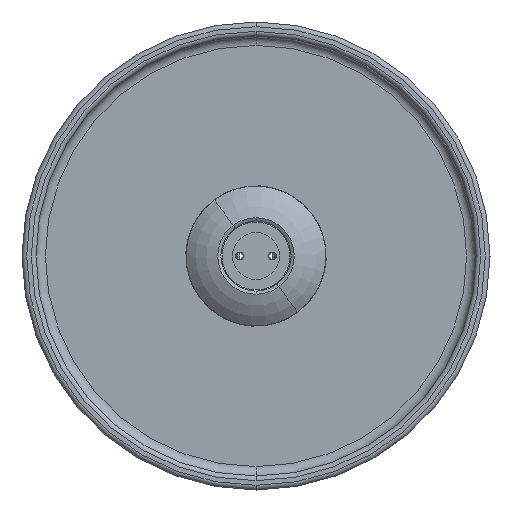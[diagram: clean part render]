
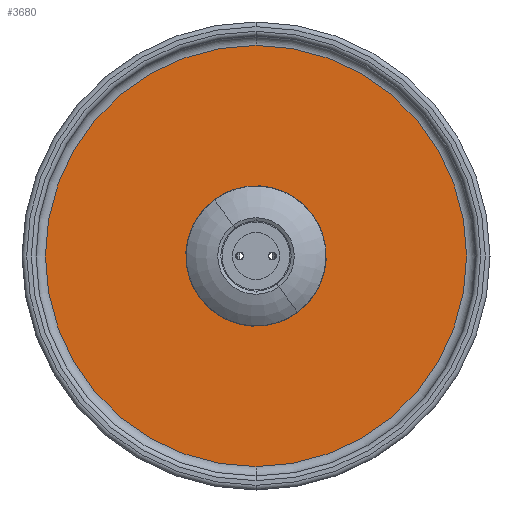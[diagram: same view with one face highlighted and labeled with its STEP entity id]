
A CAD part, front view. The second image highlights one B-rep face of the part: STEP entity #3680.
In plain terms, the highlighted planar face has unit normal (0, -1, 0).
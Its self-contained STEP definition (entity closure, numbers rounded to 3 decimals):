
#84 = EDGE_CURVE ( 'NONE', #2416, #198, #3423, .T. ) ;
#179 = ORIENTED_EDGE ( 'NONE', *, *, #84, .F. ) ;
#198 = VERTEX_POINT ( 'NONE', #1131 ) ;
#203 = CARTESIAN_POINT ( 'NONE',  ( 0., -3., 45. ) ) ;
#301 = DIRECTION ( 'NONE',  ( 0., -1., 0. ) ) ;
#386 = EDGE_LOOP ( 'NONE', ( #2329, #179 ) ) ;
#437 = CARTESIAN_POINT ( 'NONE',  ( -45., -3., 0. ) ) ;
#505 = AXIS2_PLACEMENT_3D ( 'NONE', #586, #2387, #889 ) ;
#524 = CARTESIAN_POINT ( 'NONE',  ( 0., -3., 10.25 ) ) ;
#586 = CARTESIAN_POINT ( 'NONE',  ( 0., -3., 0. ) ) ;
#670 = DIRECTION ( 'NONE',  ( 0., -1., 0. ) ) ;
#699 = DIRECTION ( 'NONE',  ( 0., 0., -1. ) ) ;
#824 = AXIS2_PLACEMENT_3D ( 'NONE', #1134, #1432, #3865 ) ;
#889 = DIRECTION ( 'NONE',  ( 0., 0., -1. ) ) ;
#954 = CARTESIAN_POINT ( 'NONE',  ( 0., -3., 0. ) ) ;
#1131 = CARTESIAN_POINT ( 'NONE',  ( 0., -3., -10.25 ) ) ;
#1132 = AXIS2_PLACEMENT_3D ( 'NONE', #437, #2243, #1923 ) ;
#1134 = CARTESIAN_POINT ( 'NONE',  ( 0., -3., 0. ) ) ;
#1321 = CIRCLE ( 'NONE', #2276, 45. ) ;
#1432 = DIRECTION ( 'NONE',  ( 0., -1., 0. ) ) ;
#1474 = VERTEX_POINT ( 'NONE', #2679 ) ;
#1875 = FACE_BOUND ( 'NONE', #386, .T. ) ;
#1923 = DIRECTION ( 'NONE',  ( 0., 0., 1. ) ) ;
#1951 = CARTESIAN_POINT ( 'NONE',  ( 0., -3., 0. ) ) ;
#2026 = CIRCLE ( 'NONE', #824, 10.25 ) ;
#2243 = DIRECTION ( 'NONE',  ( 0., 1., 0. ) ) ;
#2276 = AXIS2_PLACEMENT_3D ( 'NONE', #1951, #301, #2364 ) ;
#2286 = ORIENTED_EDGE ( 'NONE', *, *, #3348, .T. ) ;
#2329 = ORIENTED_EDGE ( 'NONE', *, *, #2938, .F. ) ;
#2364 = DIRECTION ( 'NONE',  ( 0., 0., -1. ) ) ;
#2387 = DIRECTION ( 'NONE',  ( 0., -1., 0. ) ) ;
#2413 = AXIS2_PLACEMENT_3D ( 'NONE', #954, #670, #699 ) ;
#2416 = VERTEX_POINT ( 'NONE', #524 ) ;
#2440 = EDGE_CURVE ( 'NONE', #2724, #1474, #1321, .T. ) ;
#2572 = PLANE ( 'NONE',  #1132 ) ;
#2679 = CARTESIAN_POINT ( 'NONE',  ( 0., -3., -45. ) ) ;
#2724 = VERTEX_POINT ( 'NONE', #203 ) ;
#2810 = FACE_OUTER_BOUND ( 'NONE', #3772, .T. ) ;
#2938 = EDGE_CURVE ( 'NONE', #198, #2416, #2026, .T. ) ;
#3044 = ORIENTED_EDGE ( 'NONE', *, *, #2440, .T. ) ;
#3348 = EDGE_CURVE ( 'NONE', #1474, #2724, #3519, .T. ) ;
#3423 = CIRCLE ( 'NONE', #2413, 10.25 ) ;
#3519 = CIRCLE ( 'NONE', #505, 45. ) ;
#3680 = ADVANCED_FACE ( 'NONE', ( #1875, #2810 ), #2572, .F. ) ;
#3772 = EDGE_LOOP ( 'NONE', ( #2286, #3044 ) ) ;
#3865 = DIRECTION ( 'NONE',  ( 0., 0., -1. ) ) ;
